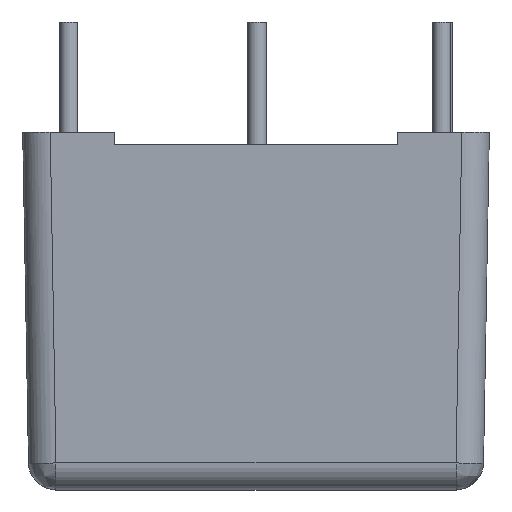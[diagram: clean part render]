
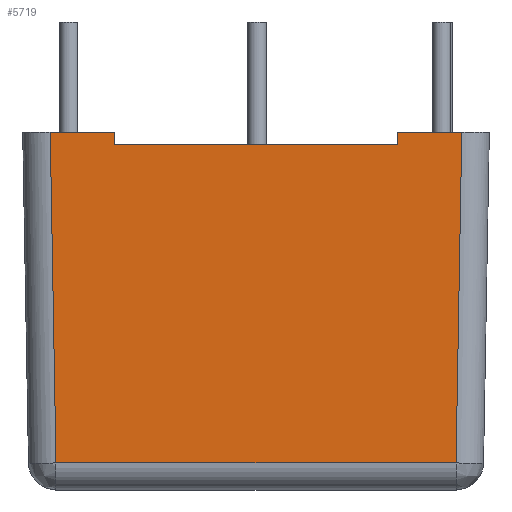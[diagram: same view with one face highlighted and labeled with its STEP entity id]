
A CAD part, front view. The second image highlights one B-rep face of the part: STEP entity #5719.
In plain terms, the highlighted planar face has unit normal (0, -1, -0.018).
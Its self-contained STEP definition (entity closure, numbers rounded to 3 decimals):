
#110 = DIRECTION ( 'NONE',  ( 0., -0.017, 1. ) ) ;
#215 = VECTOR ( 'NONE', #110, 1000. ) ;
#259 = ORIENTED_EDGE ( 'NONE', *, *, #2985, .F. ) ;
#456 = ORIENTED_EDGE ( 'NONE', *, *, #4350, .T. ) ;
#458 = VERTEX_POINT ( 'NONE', #3188 ) ;
#461 = LINE ( 'NONE', #3662, #3085 ) ;
#462 = CARTESIAN_POINT ( 'NONE',  ( -12.334, -25.098, 1.474 ) ) ;
#507 = EDGE_CURVE ( 'NONE', #6196, #3994, #3271, .T. ) ;
#565 = VECTOR ( 'NONE', #2110, 1000. ) ;
#658 = ORIENTED_EDGE ( 'NONE', *, *, #507, .T. ) ;
#688 = CARTESIAN_POINT ( 'NONE',  ( -10.898, -25.098, 1.474 ) ) ;
#1116 = LINE ( 'NONE', #5173, #2680 ) ;
#1243 = ORIENTED_EDGE ( 'NONE', *, *, #1358, .F. ) ;
#1358 = EDGE_CURVE ( 'NONE', #458, #3453, #5186, .T. ) ;
#1391 = ORIENTED_EDGE ( 'NONE', *, *, #5111, .F. ) ;
#1605 = VERTEX_POINT ( 'NONE', #4191 ) ;
#1616 = ORIENTED_EDGE ( 'NONE', *, *, #2386, .T. ) ;
#2081 = DIRECTION ( 'NONE',  ( 0.017, 0.017, -1. ) ) ;
#2110 = DIRECTION ( 'NONE',  ( 1., 0., 0. ) ) ;
#2193 = CARTESIAN_POINT ( 'NONE',  ( -12.963, -25.412, 19.5 ) ) ;
#2250 = DIRECTION ( 'NONE',  ( 1., 0., 0. ) ) ;
#2297 = LINE ( 'NONE', #2193, #3520 ) ;
#2386 = EDGE_CURVE ( 'NONE', #2968, #6196, #1116, .T. ) ;
#2457 = VECTOR ( 'NONE', #2250, 1000. ) ;
#2680 = VECTOR ( 'NONE', #2081, 1000. ) ;
#2968 = VERTEX_POINT ( 'NONE', #4157 ) ;
#2985 = EDGE_CURVE ( 'NONE', #3745, #458, #461, .T. ) ;
#2999 = LINE ( 'NONE', #6313, #215 ) ;
#3085 = VECTOR ( 'NONE', #4195, 1000. ) ;
#3188 = CARTESIAN_POINT ( 'NONE',  ( -7.7, -25.4, 18.8 ) ) ;
#3264 = VECTOR ( 'NONE', #5158, 1000. ) ;
#3271 = LINE ( 'NONE', #462, #4489 ) ;
#3453 = VERTEX_POINT ( 'NONE', #6164 ) ;
#3457 = CARTESIAN_POINT ( 'NONE',  ( -7.7, -25.412, 19.5 ) ) ;
#3500 = DIRECTION ( 'NONE',  ( 0., 0.017, -1. ) ) ;
#3520 = VECTOR ( 'NONE', #4280, 1000. ) ;
#3599 = DIRECTION ( 'NONE',  ( 1., 0., 0. ) ) ;
#3662 = CARTESIAN_POINT ( 'NONE',  ( -7.7, -25.412, 19.5 ) ) ;
#3745 = VERTEX_POINT ( 'NONE', #3457 ) ;
#3768 = VERTEX_POINT ( 'NONE', #4505 ) ;
#3994 = VERTEX_POINT ( 'NONE', #4740 ) ;
#3997 = PLANE ( 'NONE',  #4359 ) ;
#4157 = CARTESIAN_POINT ( 'NONE',  ( -11.212, -25.412, 19.5 ) ) ;
#4191 = CARTESIAN_POINT ( 'NONE',  ( 7.7, -25.412, 19.5 ) ) ;
#4195 = DIRECTION ( 'NONE',  ( 0., 0.017, -1. ) ) ;
#4199 = FACE_OUTER_BOUND ( 'NONE', #5782, .T. ) ;
#4280 = DIRECTION ( 'NONE',  ( 1., 0., 0. ) ) ;
#4350 = EDGE_CURVE ( 'NONE', #3994, #3768, #6017, .T. ) ;
#4359 = AXIS2_PLACEMENT_3D ( 'NONE', #5563, #6598, #3500 ) ;
#4489 = VECTOR ( 'NONE', #3599, 1000. ) ;
#4505 = CARTESIAN_POINT ( 'NONE',  ( 11.212, -25.412, 19.5 ) ) ;
#4562 = EDGE_CURVE ( 'NONE', #2968, #3745, #2297, .T. ) ;
#4740 = CARTESIAN_POINT ( 'NONE',  ( 10.898, -25.098, 1.474 ) ) ;
#5111 = EDGE_CURVE ( 'NONE', #1605, #3768, #5620, .T. ) ;
#5158 = DIRECTION ( 'NONE',  ( 0.017, -0.017, 1. ) ) ;
#5173 = CARTESIAN_POINT ( 'NONE',  ( -11.212, -25.412, 19.5 ) ) ;
#5179 = CARTESIAN_POINT ( 'NONE',  ( 10.898, -25.098, 1.474 ) ) ;
#5186 = LINE ( 'NONE', #6379, #2457 ) ;
#5479 = ORIENTED_EDGE ( 'NONE', *, *, #4562, .F. ) ;
#5563 = CARTESIAN_POINT ( 'NONE',  ( -12.334, -25.428, 20.401 ) ) ;
#5620 = LINE ( 'NONE', #5728, #565 ) ;
#5719 = ADVANCED_FACE ( 'NONE', ( #4199 ), #3997, .T. ) ;
#5728 = CARTESIAN_POINT ( 'NONE',  ( 7.449, -25.412, 19.5 ) ) ;
#5782 = EDGE_LOOP ( 'NONE', ( #1616, #658, #456, #1391, #6522, #1243, #259, #5479 ) ) ;
#6017 = LINE ( 'NONE', #5179, #3264 ) ;
#6123 = EDGE_CURVE ( 'NONE', #3453, #1605, #2999, .T. ) ;
#6164 = CARTESIAN_POINT ( 'NONE',  ( 7.7, -25.4, 18.8 ) ) ;
#6196 = VERTEX_POINT ( 'NONE', #688 ) ;
#6313 = CARTESIAN_POINT ( 'NONE',  ( 7.7, -25.4, 18.8 ) ) ;
#6379 = CARTESIAN_POINT ( 'NONE',  ( -8.47, -25.4, 18.8 ) ) ;
#6522 = ORIENTED_EDGE ( 'NONE', *, *, #6123, .F. ) ;
#6598 = DIRECTION ( 'NONE',  ( 0., -1., -0.017 ) ) ;
